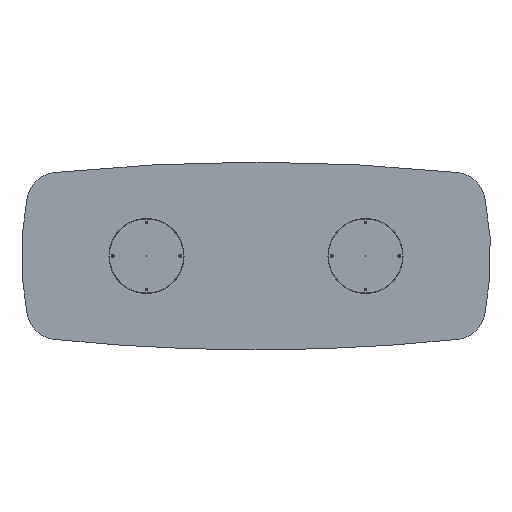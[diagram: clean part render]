
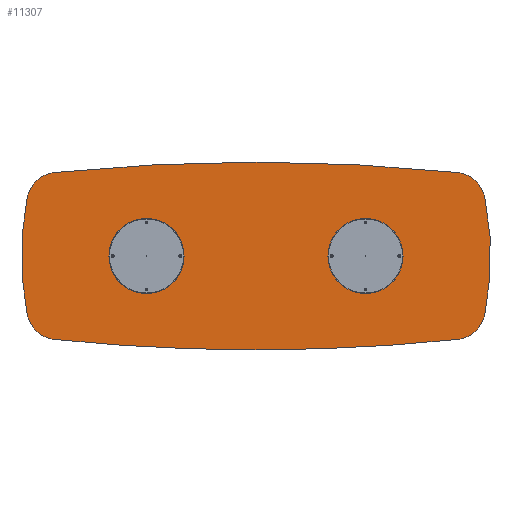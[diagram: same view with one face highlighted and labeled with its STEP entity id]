
A CAD part, front view. The second image highlights one B-rep face of the part: STEP entity #11307.
In plain terms, the highlighted planar face has unit normal (0, -1, 0).
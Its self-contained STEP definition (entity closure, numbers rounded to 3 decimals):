
#38 = CIRCLE ( 'NONE', #5962, 1900. ) ;
#214 = DIRECTION ( 'NONE',  ( 0., 0., 1. ) ) ;
#258 = AXIS2_PLACEMENT_3D ( 'NONE', #5449, #9510, #214 ) ;
#281 = DIRECTION ( 'NONE',  ( 0., 0., 1. ) ) ;
#488 = CIRCLE ( 'NONE', #7889, 1900. ) ;
#512 = CARTESIAN_POINT ( 'NONE',  ( 1287.344, 0., 533.533 ) ) ;
#517 = AXIS2_PLACEMENT_3D ( 'NONE', #2548, #4792, #8723 ) ;
#579 = DIRECTION ( 'NONE',  ( 0., 0., 1. ) ) ;
#665 = VERTEX_POINT ( 'NONE', #13106 ) ;
#704 = ORIENTED_EDGE ( 'NONE', *, *, #11075, .F. ) ;
#946 = DIRECTION ( 'NONE',  ( 0., 0., 1. ) ) ;
#965 = DIRECTION ( 'NONE',  ( 0., 0., 1. ) ) ;
#1502 = ORIENTED_EDGE ( 'NONE', *, *, #9998, .F. ) ;
#1891 = CARTESIAN_POINT ( 'NONE',  ( -1266.747, 0., 334.597 ) ) ;
#1929 = CIRCLE ( 'NONE', #9573, 12500. ) ;
#2439 = DIRECTION ( 'NONE',  ( 0., 0., 1. ) ) ;
#2548 = CARTESIAN_POINT ( 'NONE',  ( 1266.747, 0., 334.597 ) ) ;
#2635 = VERTEX_POINT ( 'NONE', #3368 ) ;
#2735 = ORIENTED_EDGE ( 'NONE', *, *, #12836, .T. ) ;
#2931 = VERTEX_POINT ( 'NONE', #7332 ) ;
#3116 = CARTESIAN_POINT ( 'NONE',  ( 0., 0., -11900. ) ) ;
#3128 = DIRECTION ( 'NONE',  ( 0., 1., 0. ) ) ;
#3236 = CARTESIAN_POINT ( 'NONE',  ( -1462.835, 0., 373.961 ) ) ;
#3312 = EDGE_CURVE ( 'NONE', #4195, #4582, #12721, .T. ) ;
#3368 = CARTESIAN_POINT ( 'NONE',  ( -1287.344, 0., 533.533 ) ) ;
#3449 = CARTESIAN_POINT ( 'NONE',  ( 1462.835, 0., 373.961 ) ) ;
#3462 = ORIENTED_EDGE ( 'NONE', *, *, #7132, .T. ) ;
#4195 = VERTEX_POINT ( 'NONE', #4588 ) ;
#4228 = CIRCLE ( 'NONE', #12083, 200. ) ;
#4272 = CIRCLE ( 'NONE', #6593, 200. ) ;
#4510 = AXIS2_PLACEMENT_3D ( 'NONE', #7910, #6911, #946 ) ;
#4525 = CIRCLE ( 'NONE', #517, 200. ) ;
#4582 = VERTEX_POINT ( 'NONE', #8398 ) ;
#4588 = CARTESIAN_POINT ( 'NONE',  ( 0., 0., -600. ) ) ;
#4792 = DIRECTION ( 'NONE',  ( 0., -1., 0. ) ) ;
#4888 = AXIS2_PLACEMENT_3D ( 'NONE', #9484, #12482, #2439 ) ;
#5149 = EDGE_CURVE ( 'NONE', #9208, #2931, #4228, .T. ) ;
#5449 = CARTESIAN_POINT ( 'NONE',  ( 0., 0., 11900. ) ) ;
#5556 = CARTESIAN_POINT ( 'NONE',  ( 1287.344, 0., -533.533 ) ) ;
#5597 = ORIENTED_EDGE ( 'NONE', *, *, #3312, .F. ) ;
#5962 = AXIS2_PLACEMENT_3D ( 'NONE', #6092, #3128, #10104 ) ;
#6092 = CARTESIAN_POINT ( 'NONE',  ( -400., 0., 0. ) ) ;
#6448 = ORIENTED_EDGE ( 'NONE', *, *, #8612, .F. ) ;
#6593 = AXIS2_PLACEMENT_3D ( 'NONE', #1891, #12058, #965 ) ;
#6612 = CARTESIAN_POINT ( 'NONE',  ( 0., 0., 11900. ) ) ;
#6911 = DIRECTION ( 'NONE',  ( 0., 1., 0. ) ) ;
#6951 = DIRECTION ( 'NONE',  ( 0., 1., 0. ) ) ;
#7014 = DIRECTION ( 'NONE',  ( 0., 0., 1. ) ) ;
#7132 = EDGE_CURVE ( 'NONE', #665, #4582, #12746, .T. ) ;
#7182 = DIRECTION ( 'NONE',  ( 0., 0., 1. ) ) ;
#7332 = CARTESIAN_POINT ( 'NONE',  ( 1462.835, 0., -373.961 ) ) ;
#7341 = EDGE_CURVE ( 'NONE', #2635, #9661, #1929, .T. ) ;
#7453 = CARTESIAN_POINT ( 'NONE',  ( 400., 0., 0. ) ) ;
#7586 = ORIENTED_EDGE ( 'NONE', *, *, #9898, .T. ) ;
#7889 = AXIS2_PLACEMENT_3D ( 'NONE', #7453, #10329, #7182 ) ;
#7910 = CARTESIAN_POINT ( 'NONE',  ( -200., 0., 5950. ) ) ;
#8033 = AXIS2_PLACEMENT_3D ( 'NONE', #6612, #11862, #579 ) ;
#8306 = CARTESIAN_POINT ( 'NONE',  ( 1266.747, 0., -334.597 ) ) ;
#8398 = CARTESIAN_POINT ( 'NONE',  ( -1287.344, 0., -533.533 ) ) ;
#8612 = EDGE_CURVE ( 'NONE', #9208, #4195, #9594, .T. ) ;
#8723 = DIRECTION ( 'NONE',  ( 0., 0., 1. ) ) ;
#8823 = ORIENTED_EDGE ( 'NONE', *, *, #5149, .T. ) ;
#9208 = VERTEX_POINT ( 'NONE', #5556 ) ;
#9484 = CARTESIAN_POINT ( 'NONE',  ( -1266.747, 0., -334.597 ) ) ;
#9510 = DIRECTION ( 'NONE',  ( 0., 1., 0. ) ) ;
#9573 = AXIS2_PLACEMENT_3D ( 'NONE', #3116, #6951, #7014 ) ;
#9587 = PLANE ( 'NONE',  #4510 ) ;
#9594 = CIRCLE ( 'NONE', #258, 12500. ) ;
#9661 = VERTEX_POINT ( 'NONE', #512 ) ;
#9898 = EDGE_CURVE ( 'NONE', #2635, #10866, #4272, .T. ) ;
#9998 = EDGE_CURVE ( 'NONE', #10235, #2931, #38, .T. ) ;
#10104 = DIRECTION ( 'NONE',  ( 0., 0., 1. ) ) ;
#10235 = VERTEX_POINT ( 'NONE', #3449 ) ;
#10329 = DIRECTION ( 'NONE',  ( 0., 1., 0. ) ) ;
#10379 = DIRECTION ( 'NONE',  ( 0., -1., 0. ) ) ;
#10866 = VERTEX_POINT ( 'NONE', #3236 ) ;
#11075 = EDGE_CURVE ( 'NONE', #665, #10866, #488, .T. ) ;
#11307 = ADVANCED_FACE ( 'NONE', ( #12590 ), #9587, .F. ) ;
#11531 = ORIENTED_EDGE ( 'NONE', *, *, #7341, .F. ) ;
#11596 = EDGE_LOOP ( 'NONE', ( #11531, #7586, #704, #3462, #5597, #6448, #8823, #1502, #2735 ) ) ;
#11862 = DIRECTION ( 'NONE',  ( 0., 1., 0. ) ) ;
#12058 = DIRECTION ( 'NONE',  ( 0., -1., 0. ) ) ;
#12083 = AXIS2_PLACEMENT_3D ( 'NONE', #8306, #10379, #281 ) ;
#12482 = DIRECTION ( 'NONE',  ( 0., -1., 0. ) ) ;
#12590 = FACE_OUTER_BOUND ( 'NONE', #11596, .T. ) ;
#12721 = CIRCLE ( 'NONE', #8033, 12500. ) ;
#12746 = CIRCLE ( 'NONE', #4888, 200. ) ;
#12836 = EDGE_CURVE ( 'NONE', #10235, #9661, #4525, .T. ) ;
#13106 = CARTESIAN_POINT ( 'NONE',  ( -1462.835, 0., -373.961 ) ) ;
